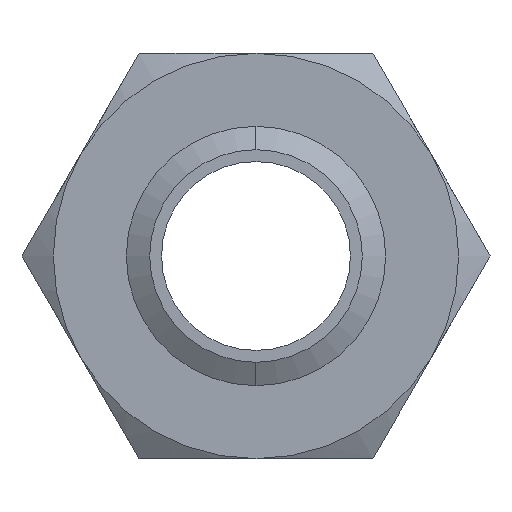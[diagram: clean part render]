
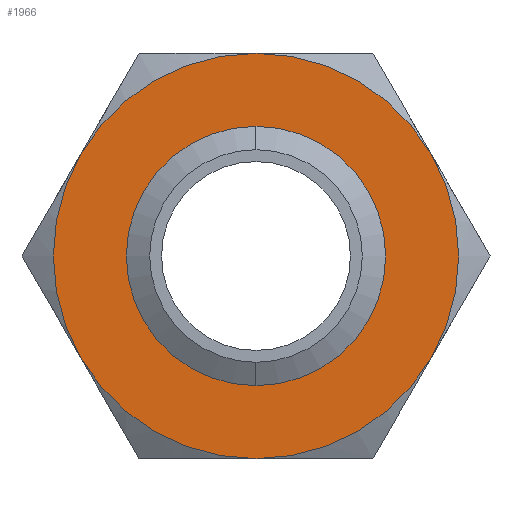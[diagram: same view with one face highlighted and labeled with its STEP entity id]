
A CAD part, front view. The second image highlights one B-rep face of the part: STEP entity #1966.
In plain terms, the highlighted planar face has unit normal (0, -1, 0).
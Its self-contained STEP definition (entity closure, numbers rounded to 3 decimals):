
#257 = ORIENTED_EDGE ( 'NONE', *, *, #262, .F. ) ;
#262 = EDGE_CURVE ( 'NONE', #1985, #1755, #735, .T. ) ;
#356 = VERTEX_POINT ( 'NONE', #829 ) ;
#732 = DIRECTION ( 'NONE',  ( 0., 0., 1. ) ) ;
#733 = DIRECTION ( 'NONE',  ( 0., 1., 0. ) ) ;
#734 = AXIS2_PLACEMENT_3D ( 'NONE', #741, #733, #732 ) ;
#735 = CIRCLE ( 'NONE', #734, 37.5 ) ;
#741 = CARTESIAN_POINT ( 'NONE',  ( 0., 0., 0. ) ) ;
#829 = CARTESIAN_POINT ( 'NONE',  ( 32.476, 0., 18.75 ) ) ;
#845 = DIRECTION ( 'NONE',  ( 0., 0., 1. ) ) ;
#846 = DIRECTION ( 'NONE',  ( 0., 1., 0. ) ) ;
#847 = CARTESIAN_POINT ( 'NONE',  ( 0., 0., 0. ) ) ;
#848 = AXIS2_PLACEMENT_3D ( 'NONE', #847, #846, #845 ) ;
#849 = CIRCLE ( 'NONE', #848, 37.5 ) ;
#850 = CARTESIAN_POINT ( 'NONE',  ( 0., 0., 37.5 ) ) ;
#852 = DIRECTION ( 'NONE',  ( 0., 0., 1. ) ) ;
#853 = DIRECTION ( 'NONE',  ( 0., 1., 0. ) ) ;
#854 = CARTESIAN_POINT ( 'NONE',  ( 0., 0., 0. ) ) ;
#855 = AXIS2_PLACEMENT_3D ( 'NONE', #854, #853, #852 ) ;
#859 = CIRCLE ( 'NONE', #855, 37.5 ) ;
#868 = CARTESIAN_POINT ( 'NONE',  ( -32.476, 0., -18.75 ) ) ;
#1229 = CARTESIAN_POINT ( 'NONE',  ( 0., 0., -37.5 ) ) ;
#1234 = DIRECTION ( 'NONE',  ( 0., 0., 1. ) ) ;
#1235 = DIRECTION ( 'NONE',  ( 0., 1., 0. ) ) ;
#1236 = CARTESIAN_POINT ( 'NONE',  ( 0., 0., 0. ) ) ;
#1237 = AXIS2_PLACEMENT_3D ( 'NONE', #1236, #1235, #1234 ) ;
#1238 = CIRCLE ( 'NONE', #1237, 37.5 ) ;
#1252 = CARTESIAN_POINT ( 'NONE',  ( 32.476, 0., -18.75 ) ) ;
#1269 = DIRECTION ( 'NONE',  ( 0., 0., -1. ) ) ;
#1270 = DIRECTION ( 'NONE',  ( 0., -1., 0. ) ) ;
#1271 = CARTESIAN_POINT ( 'NONE',  ( 0., 0., 0. ) ) ;
#1272 = AXIS2_PLACEMENT_3D ( 'NONE', #1271, #1270, #1269 ) ;
#1273 = CIRCLE ( 'NONE', #1272, 19.67 ) ;
#1278 = CARTESIAN_POINT ( 'NONE',  ( 0., 0., -19.67 ) ) ;
#1282 = DIRECTION ( 'NONE',  ( 0., 0., 1. ) ) ;
#1283 = DIRECTION ( 'NONE',  ( 0., 1., 0. ) ) ;
#1284 = CARTESIAN_POINT ( 'NONE',  ( 0., 0., 0. ) ) ;
#1285 = AXIS2_PLACEMENT_3D ( 'NONE', #1284, #1283, #1282 ) ;
#1286 = CIRCLE ( 'NONE', #1285, 37.5 ) ;
#1287 = DIRECTION ( 'NONE',  ( 0., 0., 1. ) ) ;
#1288 = DIRECTION ( 'NONE',  ( 0., 1., 0. ) ) ;
#1289 = CARTESIAN_POINT ( 'NONE',  ( 0., 0., 0. ) ) ;
#1290 = AXIS2_PLACEMENT_3D ( 'NONE', #1289, #1288, #1287 ) ;
#1291 = CIRCLE ( 'NONE', #1290, 37.5 ) ;
#1296 = DIRECTION ( 'NONE',  ( 0., 0., 1. ) ) ;
#1297 = DIRECTION ( 'NONE',  ( 0., 1., 0. ) ) ;
#1298 = CARTESIAN_POINT ( 'NONE',  ( 21.651, 0., -37.5 ) ) ;
#1299 = AXIS2_PLACEMENT_3D ( 'NONE', #1298, #1297, #1296 ) ;
#1300 = PLANE ( 'NONE',  #1299 ) ;
#1301 = FACE_BOUND ( 'NONE', #1916, .T. ) ;
#1302 = FACE_OUTER_BOUND ( 'NONE', #1931, .T. ) ;
#1303 = CARTESIAN_POINT ( 'NONE',  ( 0., 0., 19.67 ) ) ;
#1330 = CARTESIAN_POINT ( 'NONE',  ( -32.476, 0., 18.75 ) ) ;
#1350 = DIRECTION ( 'NONE',  ( 0., 0., -1. ) ) ;
#1351 = DIRECTION ( 'NONE',  ( 0., -1., 0. ) ) ;
#1352 = CARTESIAN_POINT ( 'NONE',  ( 0., 0., 0. ) ) ;
#1353 = AXIS2_PLACEMENT_3D ( 'NONE', #1352, #1351, #1350 ) ;
#1354 = CIRCLE ( 'NONE', #1353, 19.67 ) ;
#1677 = ORIENTED_EDGE ( 'NONE', *, *, #1940, .F. ) ;
#1748 = VERTEX_POINT ( 'NONE', #868 ) ;
#1752 = ORIENTED_EDGE ( 'NONE', *, *, #1753, .F. ) ;
#1753 = EDGE_CURVE ( 'NONE', #1748, #1985, #859, .T. ) ;
#1755 = VERTEX_POINT ( 'NONE', #850 ) ;
#1756 = ORIENTED_EDGE ( 'NONE', *, *, #1757, .F. ) ;
#1757 = EDGE_CURVE ( 'NONE', #1755, #356, #849, .T. ) ;
#1916 = EDGE_LOOP ( 'NONE', ( #1930, #1952 ) ) ;
#1929 = VERTEX_POINT ( 'NONE', #1252 ) ;
#1930 = ORIENTED_EDGE ( 'NONE', *, *, #1968, .F. ) ;
#1931 = EDGE_LOOP ( 'NONE', ( #1756, #257, #1752, #1677, #1936, #1941 ) ) ;
#1936 = ORIENTED_EDGE ( 'NONE', *, *, #1937, .F. ) ;
#1937 = EDGE_CURVE ( 'NONE', #1929, #1939, #1238, .T. ) ;
#1939 = VERTEX_POINT ( 'NONE', #1229 ) ;
#1940 = EDGE_CURVE ( 'NONE', #1939, #1748, #1291, .T. ) ;
#1941 = ORIENTED_EDGE ( 'NONE', *, *, #1942, .F. ) ;
#1942 = EDGE_CURVE ( 'NONE', #356, #1929, #1286, .T. ) ;
#1947 = VERTEX_POINT ( 'NONE', #1278 ) ;
#1949 = EDGE_CURVE ( 'NONE', #1962, #1947, #1273, .T. ) ;
#1952 = ORIENTED_EDGE ( 'NONE', *, *, #1949, .F. ) ;
#1962 = VERTEX_POINT ( 'NONE', #1303 ) ;
#1966 = ADVANCED_FACE ( 'NONE', ( #1302, #1301 ), #1300, .F. ) ;
#1968 = EDGE_CURVE ( 'NONE', #1947, #1962, #1354, .T. ) ;
#1985 = VERTEX_POINT ( 'NONE', #1330 ) ;
